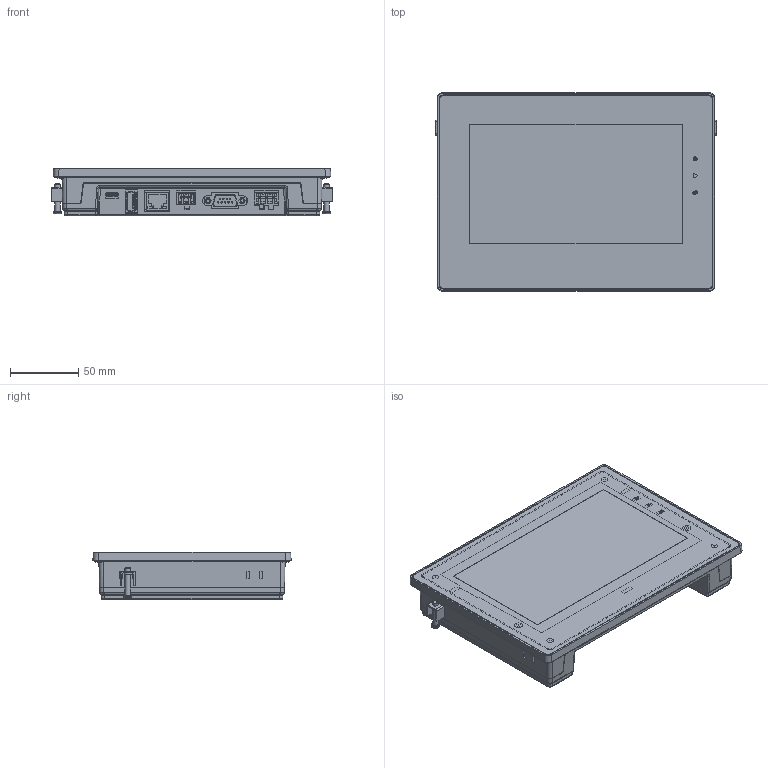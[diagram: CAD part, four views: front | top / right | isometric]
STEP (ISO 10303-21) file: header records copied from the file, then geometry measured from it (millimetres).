
FILE_DESCRIPTION(/* description */ ('FreeCAD Model'),/* implementation_level */ '2;1');
FILE_NAME(/* name */ 'ed8a4d64-82c5-430e-839e-c74af12463d1.zip.stp',/* time_stamp */ '2026-04-09T14:51:07Z',/* author */ (''),/* organization */ (''),/* preprocessor_version */ 'ST-DEVELOPER v20.1',/* originating_system */ 'Autodesk Translation Framework v15.8.0.0',/* authorisation */ '');
FILE_SCHEMA (('AUTOMOTIVE_DESIGN { 1 0 10303 214 3 1 1 }'));
Products named in the file (3): HMI-070U3SE-M7-ASM_ASM_ASM; HMI-070U3SE-M7-ASM_ASM_668_ASM; 2171750001
Assembly tree (2 placements, depth 2):
  HMI-070U3SE-M7-ASM_ASM_ASM
    HMI-070U3SE-M7-ASM_ASM_668_ASM
    2171750001
Bounding box: 205.3 x 145 x 34.95 mm (x, y, z)
Volume: 291639.6 mm3; surface area: 304427.9 mm2
Topology: 25 solids, 42 shells, 5202 faces, 13920 edges, 9147 vertices
Faces by surface type: plane 3713, cylinder 1096, bspline 291, torus 48, cone 48, sphere 6
Full cylindrical faces by diameter (mm): 0.05 x2, 1 x9, 1.25 x4, 1.5 x5, 2 x3, 2.2 x44, 2.5 x2, 2.55 x6, 3.3 x4, 3.5 x4, 4 x2, 4.725 x1, 5.3 x2, 5.7 x4, 6 x6, 6.05 x2, 6.9 x4, 7.3 x4
Entity records: 188418 total; most frequent: CARTESIAN_POINT 57305, ORIENTED_EDGE 27836, DIRECTION 25379, EDGE_CURVE 13918, LINE 10811, VECTOR 10811, VERTEX_POINT 9147, AXIS2_PLACEMENT_3D 7284
